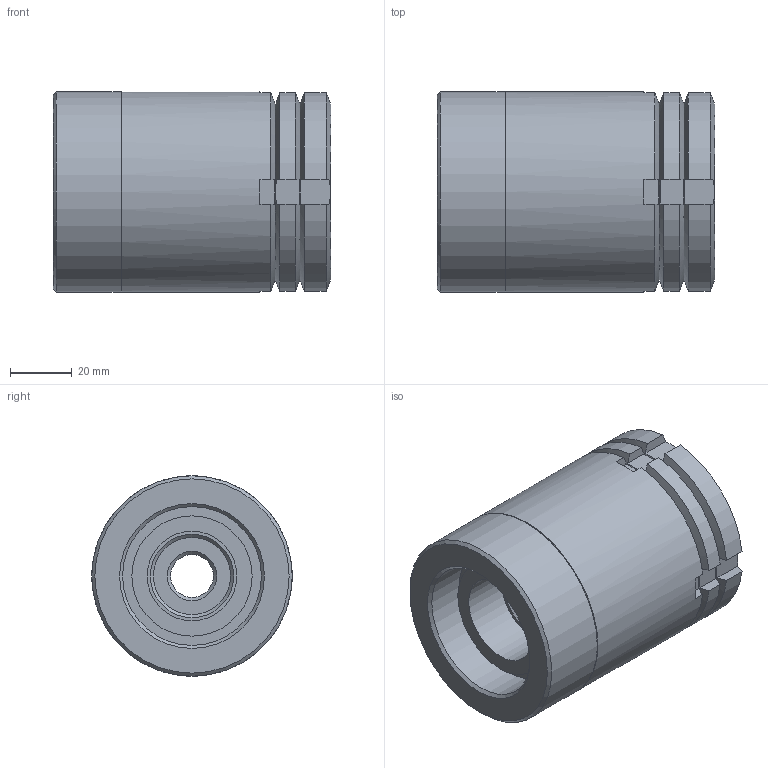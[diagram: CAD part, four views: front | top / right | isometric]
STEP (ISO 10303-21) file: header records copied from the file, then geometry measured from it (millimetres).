
FILE_DESCRIPTION( ( 'STEP AP203' ), '1' );
FILE_NAME( 'C:/Temp/Ganter_Step_05_03_2020/data/3_2/gn360/gn360_st/Levelling set GN 360-65-M16-112-B-ST (0-0).stp', '2020-03-13T05:41:57', ( 'License CC BY-ND 4.0' ), ( 'CADENAS' ), ' ', 'PARTsolutions', ' ' );
FILE_SCHEMA( ( 'CONFIG_CONTROL_DESIGN' ) );
Length unit declared in the file: millimetre
Products named in the file (5): Levelling set GN 360-65-M16-112-B-ST (0-0); _Levelling set GN 360-65-M16-112-B-ST (0-0)-1; _Levelling set GN 360-65-M16-112-B-ST (0-0)-2; _Levelling set GN 360-65-M16-112-B-ST (0-0)-4; _Levelling set GN 360-65-M16-112-B-ST (0-0)-3
Assembly tree (4 placements, depth 2):
  Levelling set GN 360-65-M16-112-B-ST (0-0)
    _Levelling set GN 360-65-M16-112-B-ST (0-0)-1
    _Levelling set GN 360-65-M16-112-B-ST (0-0)-2
    _Levelling set GN 360-65-M16-112-B-ST (0-0)-4
    _Levelling set GN 360-65-M16-112-B-ST (0-0)-3
Bounding box: 90 x 65 x 65 mm (x, y, z)
Volume: 241832.6 mm3; surface area: 61761.8 mm2
Topology: 4 solids, 4 shells, 95 faces, 229 edges, 148 vertices
Faces by surface type: plane 54, cylinder 22, cone 16, sphere 2, torus 1
Full cylindrical faces by diameter (mm): 13.835 x1, 25 x1, 29 x1, 32 x1, 38 x1, 39 x1, 43 x1, 43.376 x2, 45 x2, 45.5 x1, 65 x2
Entity records: 2924 total; most frequent: CARTESIAN_POINT 768, DIRECTION 396, ORIENTED_EDGE 376, EDGE_CURVE 188, AXIS2_PLACEMENT_3D 168, EDGE_LOOP 142, VERTEX_POINT 140, FACE_OUTER_BOUND 112
